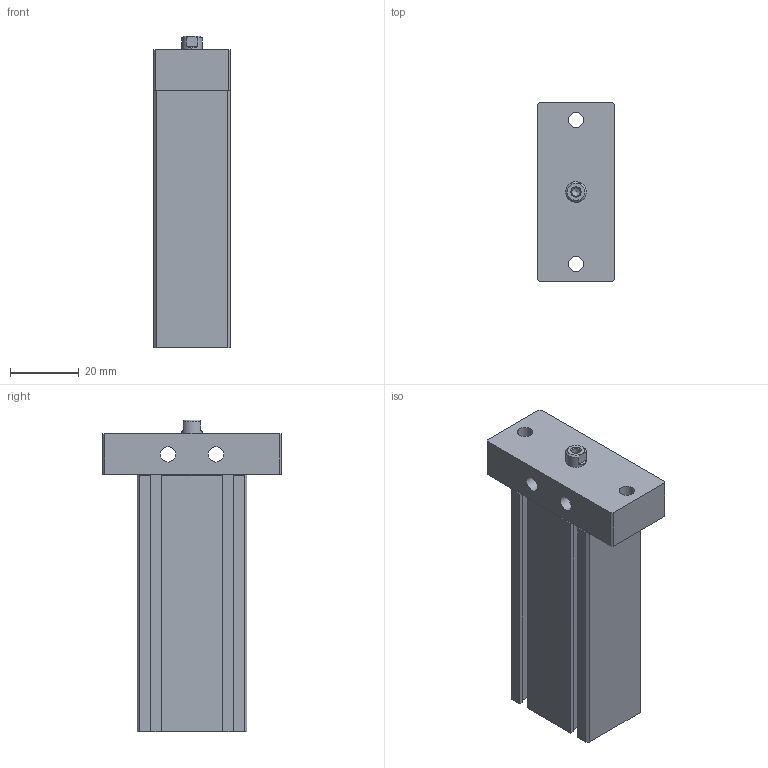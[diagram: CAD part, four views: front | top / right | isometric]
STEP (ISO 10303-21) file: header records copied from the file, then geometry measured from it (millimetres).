
FILE_DESCRIPTION((''),'2;1');
FILE_NAME('J:\3D電子目錄\氣缸\ND\ND\ND-F\ND16x50-F.stp','2008-03-12T13:55:08',('66-2f-008'),(''),'Autodesk Inventor 11','Autodesk Inventor 11','');
FILE_SCHEMA(('AUTOMOTIVE_DESIGN { 1 0 10303 214 1 1 1 1 }'));
Length unit declared in the file: millimetre
Products named in the file (1): ND16-F
Bounding box: 22.4 x 52 x 91 mm (x, y, z)
Volume: 58817.7 mm3; surface area: 17853.2 mm2
Topology: 2 solids, 2 shells, 110 faces, 268 edges, 171 vertices
Faces by surface type: plane 75, bspline 16, cone 10, cylinder 8, torus 1
Full cylindrical faces by diameter (mm): 1.5 x2, 4.5 x2, 6 x1, 10 x1, 18 x1, 19 x1
Entity records: 3158 total; most frequent: CARTESIAN_POINT 731, DIRECTION 466, ORIENTED_EDGE 464, EDGE_CURVE 232, VECTOR 180, LINE 180, VERTEX_POINT 164, EDGE_LOOP 156
